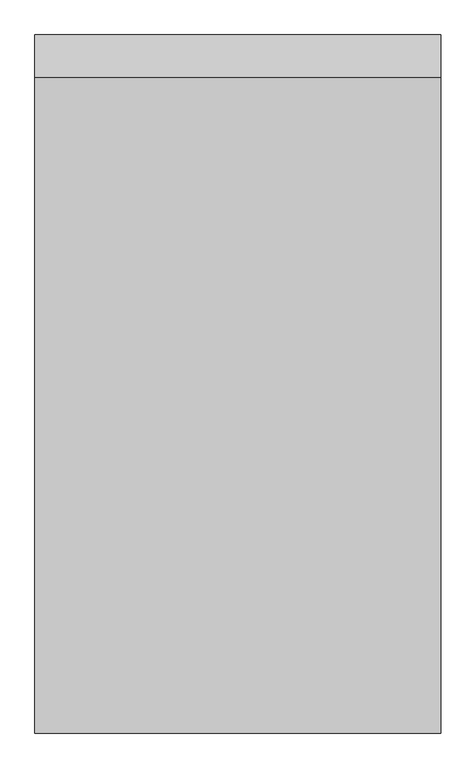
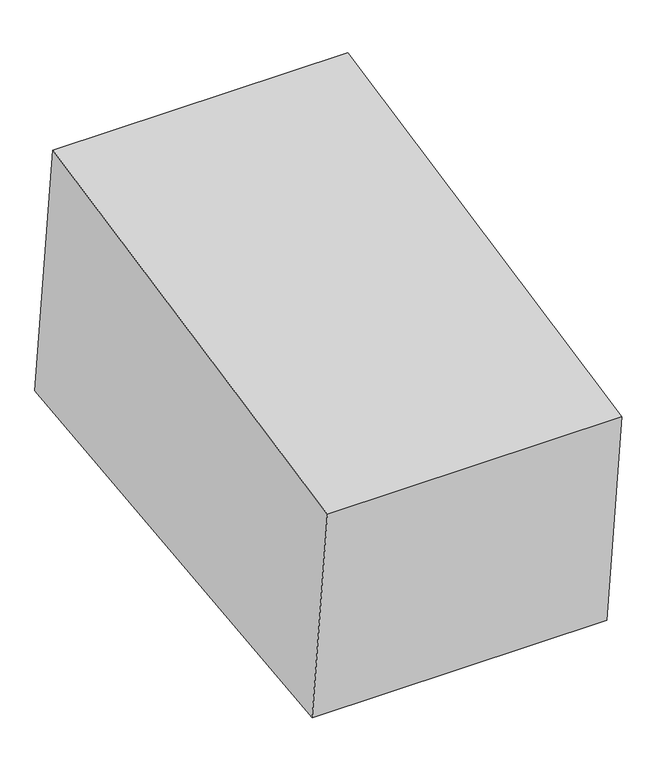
"""IFC4 building model written with IfcOpenShell, lengths in millimetres: proxy geometry, Excavation FamilySP : Excavation FamilySP."""

from ifc_helpers import new_model, si_unit, frame, origin, place, context, project, spatial, polyline, outline, extrude, source, transform, mapped, element, save


def generic_models_49b288b9(model_context):
    return source(origin(), model_context, "Body", "SweptSolid", [
        extrude(outline(polyline([(-323.2235293, 2822.7790112), (0.0, 0.0), (-4967.5401245, -568.8103265), (-5241.4069366, 1822.9261002), (-323.2235293, 2822.7790112)])), frame((-1524.0, 0.0, 0.0), z_axis=(1.0, 0.0, 0.0), x_axis=(0.0, 1.0, 0.0)), (0.0, 0.0, 1.0), 3048.0),
    ])


if __name__ == "__main__":
    model = new_model("IFC4")
    model_context = context("Model", 3, world=origin())
    ifc_project = project(units=[si_unit("LENGTHUNIT", "METRE", prefix="MILLI")], contexts=[model_context])
    site = spatial("IfcSite", under=ifc_project)
    building = spatial("IfcBuilding", under=site)
    placement = place(None, origin())
    generic_models_shape = generic_models_49b288b9(model_context)
    element("IfcBuildingElementProxy", 1, Name="Excavation FamilySP : Excavation FamilySP", ObjectType="Excavation FamilySP : Excavation FamilySP", at=placement, inside=building, context=model_context, shape_type="MappedRepresentation", body=[
        mapped(generic_models_shape, transform((0.0, 0.0, 0.0), x_axis=(1.0, 0.0, 0.0), y_axis=(0.0, 1.0, 0.0), z_axis=(0.0, 0.0, 1.0))),
    ])
    save(model, "model.ifc")
